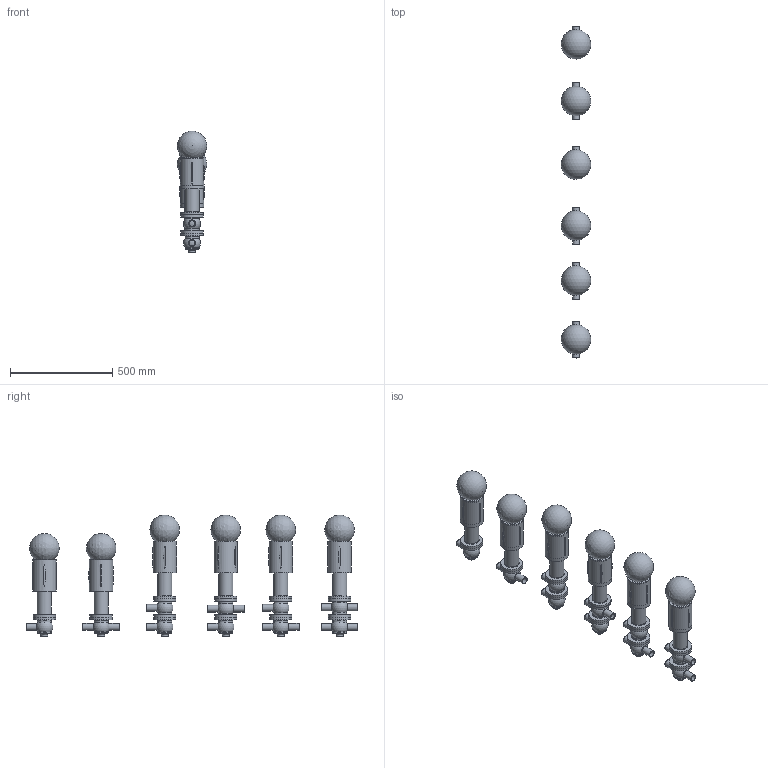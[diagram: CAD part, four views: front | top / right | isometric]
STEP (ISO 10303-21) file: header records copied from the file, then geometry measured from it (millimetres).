
FILE_DESCRIPTION(/* description */ (''),/* implementation_level */ '2;1');
FILE_NAME(/* name */ 'C:\Users\marz-m\Desktop\PDF\BBZQ 3D STEP\BBZQ-DN32-CIL.134.stp',/* time_stamp */ '2018-04-13T14:40:54+02:00',/* author */ ('marz-m'),/* organization */ (''),/* preprocessor_version */ 'ST-DEVELOPER v17',/* originating_system */ 'Autodesk Inventor 2018',/* authorisation */ '');
FILE_SCHEMA (('AUTOMOTIVE_DESIGN { 1 0 10303 214 3 1 1 }'));
Length unit declared in the file: millimetre
Products named in the file (8): BBZQ-DN32-CIL.134-1; COR-INF-L-BBZQ-DN34X2.5-SALD; COR-INF-T-BBZQ-DN34X2.5-SALD; assemblaggio dn40 per cil 108-156; CIL108; SAGOMA-GIOTTO-; CORPO-SUP-INF-BBZQ-L-DN34X2.5-SALD; CORPO-SUP-SUP-BBZQ-T-DN34X2.5-SALD
Assembly tree (28 placements, depth 2):
  BBZQ-DN32-CIL.134-1
    COR-INF-L-BBZQ-DN34X2.5-SALD  x3
    COR-INF-T-BBZQ-DN34X2.5-SALD  x3
    assemblaggio dn40 per cil 108-156  x6
    CIL108  x6
    SAGOMA-GIOTTO-  x6
    CORPO-SUP-INF-BBZQ-L-DN34X2.5-SALD  x2
    CORPO-SUP-SUP-BBZQ-T-DN34X2.5-SALD  x2
Bounding box: 144.47 x 1623.3 x 595.47 mm (x, y, z)
Volume: 19639644.9 mm3; surface area: 2148837.7 mm2
Topology: 28 solids, 34 shells, 392 faces, 954 edges, 716 vertices
Faces by surface type: plane 121, cylinder 112, cone 66, torus 62, sphere 31
Full cylindrical faces by diameter (mm): 20 x12, 29 x21, 34 x21, 68 x20, 69 x6, 108.5 x6, 109 x20, 114 x6
Entity records: 3979 total; most frequent: CARTESIAN_POINT 875, DIRECTION 689, ORIENTED_EDGE 506, AXIS2_PLACEMENT_3D 324, EDGE_CURVE 253, VERTEX_POINT 190, CIRCLE 180, EDGE_LOOP 137
